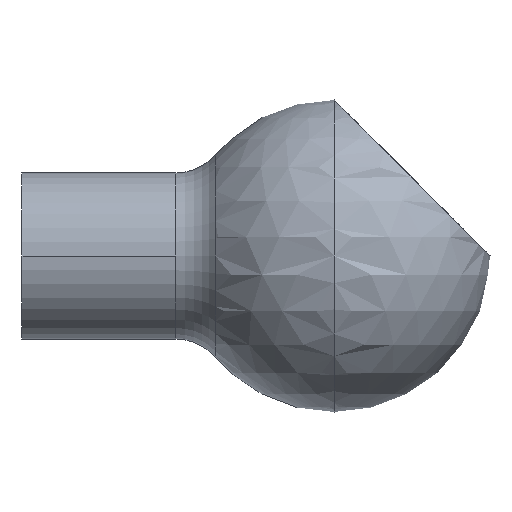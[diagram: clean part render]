
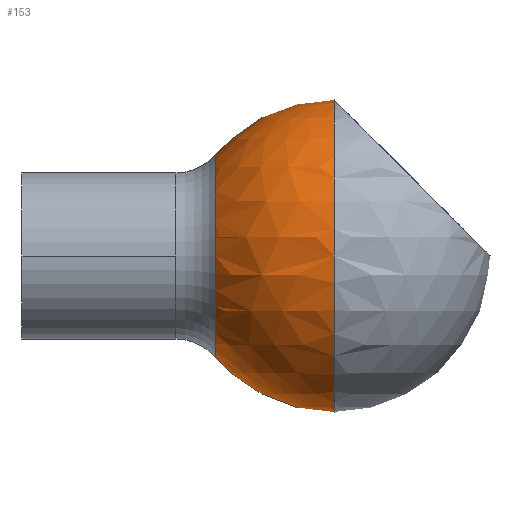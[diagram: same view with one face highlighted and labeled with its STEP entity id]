
A CAD part, left-side view. The second image highlights one B-rep face of the part: STEP entity #153.
In plain terms, the highlighted spherical face has radius 15 mm.
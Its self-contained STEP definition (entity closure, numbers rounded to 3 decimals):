
#153 = ADVANCED_FACE( '', ( #427 ), #428, .T. );
#167 = VERTEX_POINT( '', #444 );
#199 = EDGE_CURVE( '', #217, #167, #479, .T. );
#205 = EDGE_CURVE( '', #331, #209, #485, .T. );
#209 = VERTEX_POINT( '', #489 );
#217 = VERTEX_POINT( '', #498 );
#221 = VERTEX_POINT( '', #502 );
#237 = VERTEX_POINT( '', #520 );
#261 = EDGE_CURVE( '', #167, #331, #548, .T. );
#271 = EDGE_CURVE( '', #237, #277, #560, .T. );
#275 = EDGE_CURVE( '', #209, #387, #565, .T. );
#277 = VERTEX_POINT( '', #567 );
#309 = EDGE_CURVE( '', #277, #217, #601, .T. );
#331 = VERTEX_POINT( '', #625 );
#381 = EDGE_CURVE( '', #221, #237, #680, .T. );
#387 = VERTEX_POINT( '', #686 );
#409 = EDGE_CURVE( '', #387, #221, #711, .T. );
#427 = FACE_OUTER_BOUND( '', #719, .T. );
#428 = SPHERICAL_SURFACE( '', #720, 15. );
#444 = CARTESIAN_POINT( '', ( 0., -30., -15. ) );
#479 = CIRCLE( '', #782, 15. );
#485 = CIRCLE( '', #789, 12. );
#489 = CARTESIAN_POINT( '', ( 9., -18.601, -3.75 ) );
#498 = CARTESIAN_POINT( '', ( 0., -30., 15. ) );
#502 = CARTESIAN_POINT( '', ( 0., -18.601, 9.75 ) );
#520 = CARTESIAN_POINT( '', ( 9., -18.601, 3.75 ) );
#548 = CIRCLE( '', #867, 15. );
#560 = CIRCLE( '', #901, 12. );
#565 = CIRCLE( '', #907, 9.75 );
#567 = CARTESIAN_POINT( '', ( 9., -30., 12. ) );
#601 = CIRCLE( '', #958, 15. );
#625 = CARTESIAN_POINT( '', ( 9., -30., -12. ) );
#680 = CIRCLE( '', #1065, 9.75 );
#686 = CARTESIAN_POINT( '', ( 0., -18.601, -9.75 ) );
#711 = CIRCLE( '', #1104, 9.75 );
#719 = EDGE_LOOP( '', ( #1107, #1108, #1109, #1110, #1111, #1112, #1113, #1114 ) );
#720 = AXIS2_PLACEMENT_3D( '', #1115, #1116, #1117 );
#782 = AXIS2_PLACEMENT_3D( '', #1178, #1179, #1180 );
#789 = AXIS2_PLACEMENT_3D( '', #1181, #1182, #1183 );
#867 = AXIS2_PLACEMENT_3D( '', #1270, #1271, #1272 );
#901 = AXIS2_PLACEMENT_3D( '', #1285, #1286, #1287 );
#907 = AXIS2_PLACEMENT_3D( '', #1296, #1297, #1298 );
#958 = AXIS2_PLACEMENT_3D( '', #1350, #1351, #1352 );
#1065 = AXIS2_PLACEMENT_3D( '', #1440, #1441, #1442 );
#1104 = AXIS2_PLACEMENT_3D( '', #1488, #1489, #1490 );
#1107 = ORIENTED_EDGE( '', *, *, #199, .F. );
#1108 = ORIENTED_EDGE( '', *, *, #309, .F. );
#1109 = ORIENTED_EDGE( '', *, *, #271, .F. );
#1110 = ORIENTED_EDGE( '', *, *, #381, .F. );
#1111 = ORIENTED_EDGE( '', *, *, #409, .F. );
#1112 = ORIENTED_EDGE( '', *, *, #275, .F. );
#1113 = ORIENTED_EDGE( '', *, *, #205, .F. );
#1114 = ORIENTED_EDGE( '', *, *, #261, .F. );
#1115 = CARTESIAN_POINT( '', ( 0., -30., 0. ) );
#1116 = DIRECTION( '', ( 0., 0., 1. ) );
#1117 = DIRECTION( '', ( 1., 0., 0. ) );
#1178 = CARTESIAN_POINT( '', ( 0., -30., 0. ) );
#1179 = DIRECTION( '', ( 0., -1., 0. ) );
#1180 = DIRECTION( '', ( 0., 0., 1. ) );
#1181 = CARTESIAN_POINT( '', ( 9., -30., 0. ) );
#1182 = DIRECTION( '', ( 1., 0., 0. ) );
#1183 = DIRECTION( '', ( 0., 0., -1. ) );
#1270 = CARTESIAN_POINT( '', ( 0., -30., 0. ) );
#1271 = DIRECTION( '', ( 0., -1., 0. ) );
#1272 = DIRECTION( '', ( 0., 0., 1. ) );
#1285 = CARTESIAN_POINT( '', ( 9., -30., 0. ) );
#1286 = DIRECTION( '', ( 1., 0., 0. ) );
#1287 = DIRECTION( '', ( 0., 0., -1. ) );
#1296 = CARTESIAN_POINT( '', ( 0., -18.601, 0. ) );
#1297 = DIRECTION( '', ( 0., 1., 0. ) );
#1298 = DIRECTION( '', ( 0., 0., 1. ) );
#1350 = CARTESIAN_POINT( '', ( 0., -30., 0. ) );
#1351 = DIRECTION( '', ( 0., -1., 0. ) );
#1352 = DIRECTION( '', ( 0., 0., 1. ) );
#1440 = CARTESIAN_POINT( '', ( 0., -18.601, 0. ) );
#1441 = DIRECTION( '', ( 0., 1., 0. ) );
#1442 = DIRECTION( '', ( 0., 0., 1. ) );
#1488 = CARTESIAN_POINT( '', ( 0., -18.601, 0. ) );
#1489 = DIRECTION( '', ( 0., 1., 0. ) );
#1490 = DIRECTION( '', ( 0., 0., 1. ) );
